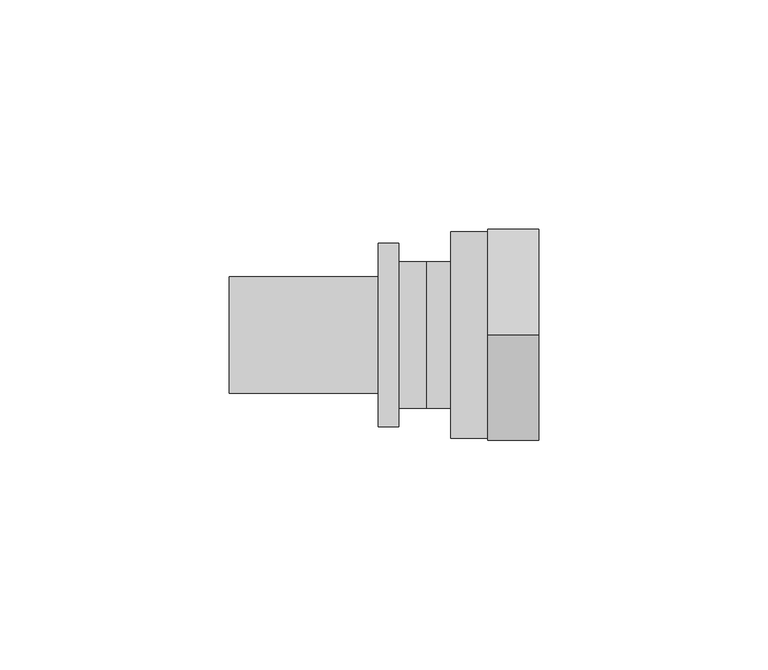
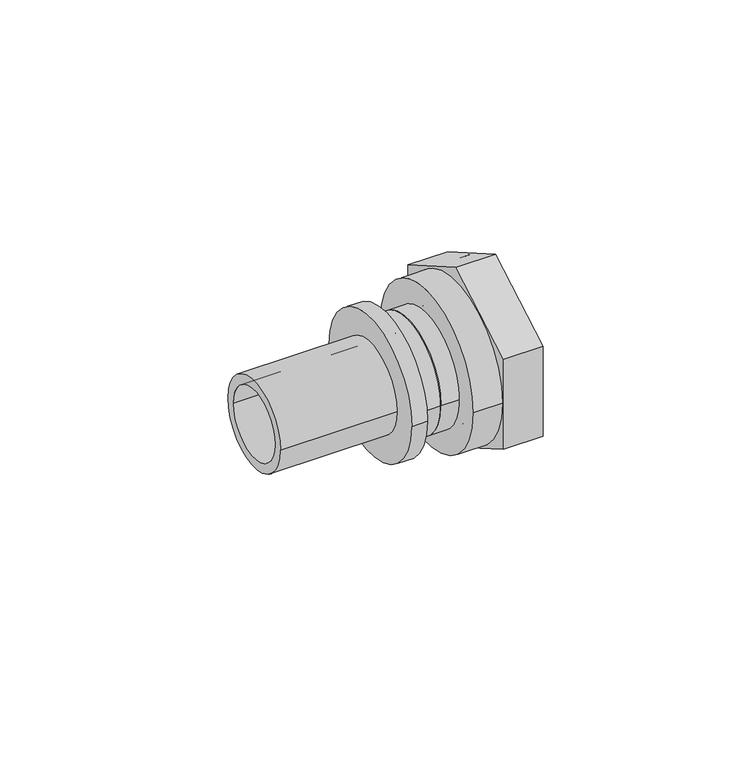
"""IFC4 building model written with IfcOpenShell, lengths in millimetres: pipe fitting geometry, REHAU_RAUTITAN_Adaptor_RX+_union nut : REHAU_RAUTITAN_Adaptor_RX+_union nut."""

from ifc_helpers import new_model, si_unit, point, frame, origin, origin_2d, place, context, project, spatial, polyline, circle_curve, trimmed, segment, composite_curve, outline, extrude, source, transform, mapped, element, save
from ifc_brep_helpers import plane_surface, cylinder_surface, revolved_surface, advanced_brep


def pipe_fitting_d2a3cc81(model_context):
    return source(origin(), model_context, "Body", "SolidModel", [
        extrude(outline(polyline([(0.0, -26.5581124), (-23.0, -13.2790562), (-23.0, 13.2790562), (0.0, 26.5581124), (23.0, 13.2790562), (23.0, -13.2790562), (0.0, -26.5581124)]), holes=[composite_curve([segment(trimmed(circle_curve(origin_2d(), 22.5), [point((-22.5, 0.0))], [point((22.5, 0.0))], True, "CARTESIAN"), True, "CONTINUOUS"), segment(trimmed(circle_curve(origin_2d(), 22.5), [point((22.5, 0.0))], [point((-22.5, 0.0))], True, "CARTESIAN"), True, "CONTINUOUS")], self_intersect=False)]), frame((13.3, 0.0, 0.0), z_axis=(1.0, 0.0, 0.0), x_axis=(0.0, 1.0, 0.0)), (0.0, 0.0, 1.0), 11.1),
        advanced_brep(
        [(24.4, 22.5, 0.0), (24.4, -22.5, 0.0), (5.3, -22.5, 0.0), (5.3, 22.5, 0.0), (9.0, 18.0, 0.0), (9.0, -18.0, 0.0), (24.4, -18.0, 0.0), (24.4, 18.0, 0.0), (5.3, 14.3, 0.0), (5.3, -14.3, 0.0), (9.0, -14.3, 0.0), (9.0, 14.3, 0.0)],
        [
            (0, 1, circle_curve(frame((24.4, 0.0, 0.0), z_axis=(-1.0, 0.0, 0.0), x_axis=(0.0, -1.0, 0.0)), 22.5)),
            (1, 2),
            (2, 3, circle_curve(frame((5.3, 0.0, 0.0), z_axis=(1.0, 0.0, 0.0), x_axis=(0.0, -1.0, 0.0)), 22.5)),
            (3, 0),
            (4, 5, circle_curve(frame((9.0, 0.0, 0.0), z_axis=(-1.0, 0.0, 0.0), x_axis=(0.0, -1.0, 0.0)), 18.0)),
            (5, 6),
            (6, 7, circle_curve(frame((24.4, 0.0, 0.0), z_axis=(1.0, 0.0, 0.0), x_axis=(0.0, -1.0, 0.0)), 18.0)),
            (7, 4),
            (8, 9, circle_curve(frame((5.3, 0.0, 0.0), z_axis=(-1.0, 0.0, 0.0), x_axis=(0.0, -1.0, 0.0)), 14.3)),
            (9, 10),
            (10, 11, circle_curve(frame((9.0, 0.0, 0.0), z_axis=(1.0, 0.0, 0.0), x_axis=(0.0, -1.0, 0.0)), 14.3)),
            (11, 8),
            (1, 0, circle_curve(frame((24.4, 0.0, 0.0), z_axis=(-1.0, 0.0, 0.0), x_axis=(0.0, 1.0, 0.0)), 22.5)),
            (3, 2, circle_curve(frame((5.3, 0.0, 0.0), z_axis=(1.0, 0.0, 0.0), x_axis=(0.0, 1.0, 0.0)), 22.5)),
            (6, 7, circle_curve(frame((24.4, 0.0, 0.0), z_axis=(-1.0, 0.0, 0.0), x_axis=(0.0, 1.0, 0.0)), 18.0)),
            (5, 4, circle_curve(frame((9.0, 0.0, 0.0), z_axis=(-1.0, 0.0, 0.0), x_axis=(0.0, 1.0, 0.0)), 18.0)),
            (10, 11, circle_curve(frame((9.0, 0.0, 0.0), z_axis=(-1.0, 0.0, 0.0), x_axis=(0.0, 1.0, 0.0)), 14.3)),
            (9, 8, circle_curve(frame((5.3, 0.0, 0.0), z_axis=(-1.0, 0.0, 0.0), x_axis=(0.0, 1.0, 0.0)), 14.3)),
        ],
        [
            cylinder_surface(frame((0.0, 0.0, 0.0), z_axis=(1.0, 0.0, 0.0), x_axis=(0.0, -1.0, 0.0)), 22.5),
            revolved_surface(polyline([(24.4, -18.0, 0.0), (9.0, -18.0, 0.0)]), (0.0, 0.0, 0.0), (1.0, 0.0, 0.0)),
            revolved_surface(polyline([(9.0, -14.3, 0.0), (5.3, -14.3, 0.0)]), (0.0, 0.0, 0.0), (1.0, 0.0, 0.0)),
            cylinder_surface(frame((0.0, 0.0, 0.0), z_axis=(1.0, 0.0, 0.0), x_axis=(0.0, 1.0, 0.0)), 22.5),
            plane_surface(frame((24.4, 0.0, 0.0), z_axis=(1.0, 0.0, 0.0), x_axis=(0.0, 1.0, 0.0))),
            revolved_surface(polyline([(24.4, 18.0, 0.0), (9.0, 18.0, 0.0)]), (0.0, 0.0, 0.0), (1.0, 0.0, 0.0)),
            plane_surface(frame((9.0, 0.0, 0.0), z_axis=(1.0, 0.0, 0.0), x_axis=(0.0, 1.0, 0.0))),
            revolved_surface(polyline([(9.0, 14.3, 0.0), (5.3, 14.3, 0.0)]), (0.0, 0.0, 0.0), (1.0, 0.0, 0.0)),
            plane_surface(frame((5.3, 0.0, 0.0), z_axis=(-1.0, 0.0, 0.0), x_axis=(0.0, 1.0, 0.0))),
        ],
        [
            (0, [[1, 2, 3, 4]]),
            (1, [[5, 6, 7, 8]]),
            (2, [[9, 10, 11, 12]]),
            (3, [[13, -4, 14, -2]]),
            (4, [[-13, -1], [15, -7]]),
            (5, [[16, -8, -15, -6]]),
            (6, [[-16, -5], [17, -11]]),
            (7, [[18, -12, -17, -10]]),
            (8, [[-14, -3], [-18, -9]]),
        ],
    ),
        advanced_brep(
        [(9.0, 16.0, 0.0), (9.0, -16.0, 0.0), (0.0, -16.0, 0.0), (0.0, 16.0, 0.0), (12.0, 18.0, 0.0), (12.0, -18.0, 0.0), (9.0, -18.0, 0.0), (9.0, 18.0, 0.0), (1.4730817, 10.0, 0.0), (1.4730817, -10.0, 0.0), (12.0, -10.0, 0.0), (12.0, 10.0, 0.0), (0.0, 7.8264556, 0.0), (0.0, -7.8264556, 0.0), (1.4730817, -7.8264556, 0.0), (1.4730817, 7.8264556, 0.0)],
        [
            (0, 1, circle_curve(frame((9.0, 0.0, 0.0), z_axis=(-1.0, 0.0, 0.0), x_axis=(0.0, -1.0, 0.0)), 16.0)),
            (1, 2),
            (2, 3, circle_curve(frame((0.0, 0.0, 0.0), z_axis=(1.0, 0.0, 0.0), x_axis=(0.0, -1.0, 0.0)), 16.0)),
            (3, 0),
            (4, 5, circle_curve(frame((12.0, 0.0, 0.0), z_axis=(-1.0, 0.0, 0.0), x_axis=(0.0, -1.0, 0.0)), 18.0)),
            (5, 6),
            (6, 7, circle_curve(frame((9.0, 0.0, 0.0), z_axis=(1.0, 0.0, 0.0), x_axis=(0.0, -1.0, 0.0)), 18.0)),
            (7, 4),
            (8, 9, circle_curve(frame((1.4730817, 0.0, 0.0), z_axis=(-1.0, 0.0, 0.0), x_axis=(0.0, -1.0, 0.0)), 10.0)),
            (9, 10),
            (10, 11, circle_curve(frame((12.0, 0.0, 0.0), z_axis=(1.0, 0.0, 0.0), x_axis=(0.0, -1.0, 0.0)), 10.0)),
            (11, 8),
            (2, 3, circle_curve(frame((0.0, 0.0, 0.0), z_axis=(-1.0, 0.0, 0.0), x_axis=(0.0, 1.0, 0.0)), 16.0)),
            (12, 13, circle_curve(frame((0.0, 0.0, 0.0), z_axis=(1.0, 0.0, 0.0), x_axis=(0.0, 1.0, 0.0)), 7.8264556)),
            (13, 12, circle_curve(frame((0.0, 0.0, 0.0), z_axis=(1.0, 0.0, 0.0), x_axis=(0.0, -1.0, 0.0)), 7.8264556)),
            (1, 0, circle_curve(frame((9.0, 0.0, 0.0), z_axis=(-1.0, 0.0, 0.0), x_axis=(0.0, 1.0, 0.0)), 16.0)),
            (6, 7, circle_curve(frame((9.0, 0.0, 0.0), z_axis=(-1.0, 0.0, 0.0), x_axis=(0.0, 1.0, 0.0)), 18.0)),
            (5, 4, circle_curve(frame((12.0, 0.0, 0.0), z_axis=(-1.0, 0.0, 0.0), x_axis=(0.0, 1.0, 0.0)), 18.0)),
            (10, 11, circle_curve(frame((12.0, 0.0, 0.0), z_axis=(-1.0, 0.0, 0.0), x_axis=(0.0, 1.0, 0.0)), 10.0)),
            (9, 8, circle_curve(frame((1.4730817, 0.0, 0.0), z_axis=(-1.0, 0.0, 0.0), x_axis=(0.0, 1.0, 0.0)), 10.0)),
            (13, 14),
            (14, 15, circle_curve(frame((1.4730817, 0.0, 0.0), z_axis=(1.0, 0.0, 0.0), x_axis=(0.0, -1.0, 0.0)), 7.8264556)),
            (15, 12),
            (14, 15, circle_curve(frame((1.4730817, 0.0, 0.0), z_axis=(-1.0, 0.0, 0.0), x_axis=(0.0, 1.0, 0.0)), 7.8264556)),
        ],
        [
            cylinder_surface(frame((0.0, 0.0, 0.0), z_axis=(1.0, 0.0, 0.0), x_axis=(0.0, -1.0, 0.0)), 16.0),
            cylinder_surface(frame((0.0, 0.0, 0.0), z_axis=(1.0, 0.0, 0.0), x_axis=(0.0, -1.0, 0.0)), 18.0),
            revolved_surface(polyline([(12.0, -10.0, 0.0), (1.4730817, -10.0, 0.0)]), (0.0, 0.0, 0.0), (1.0, 0.0, 0.0)),
            plane_surface(frame((0.0, 0.0, 0.0), z_axis=(-1.0, 0.0, 0.0), x_axis=(0.0, 1.0, 0.0))),
            cylinder_surface(frame((0.0, 0.0, 0.0), z_axis=(1.0, 0.0, 0.0), x_axis=(0.0, 1.0, 0.0)), 16.0),
            plane_surface(frame((9.0, 0.0, 0.0), z_axis=(-1.0, 0.0, 0.0), x_axis=(0.0, 1.0, 0.0))),
            cylinder_surface(frame((0.0, 0.0, 0.0), z_axis=(1.0, 0.0, 0.0), x_axis=(0.0, 1.0, 0.0)), 18.0),
            plane_surface(frame((12.0, 0.0, 0.0), z_axis=(1.0, 0.0, 0.0), x_axis=(0.0, 1.0, 0.0))),
            revolved_surface(polyline([(12.0, 10.0, 0.0), (1.4730817, 10.0, 0.0)]), (0.0, 0.0, 0.0), (1.0, 0.0, 0.0)),
            revolved_surface(polyline([(1.4730817, -7.8264556, 0.0), (0.0, -7.8264556, 0.0)]), (0.0, 0.0, 0.0), (1.0, 0.0, 0.0)),
            plane_surface(frame((1.4730817, 0.0, 0.0), z_axis=(1.0, 0.0, 0.0), x_axis=(0.0, 1.0, 0.0))),
            revolved_surface(polyline([(1.4730817, 7.8264556, 0.0), (0.0, 7.8264556, 0.0)]), (0.0, 0.0, 0.0), (1.0, 0.0, 0.0)),
        ],
        [
            (0, [[1, 2, 3, 4]]),
            (1, [[5, 6, 7, 8]]),
            (2, [[9, 10, 11, 12]]),
            (3, [[13, -3], [14, 15]]),
            (4, [[16, -4, -13, -2]]),
            (5, [[17, -7], [-16, -1]]),
            (6, [[18, -8, -17, -6]]),
            (7, [[-18, -5], [19, -11]]),
            (8, [[20, -12, -19, -10]]),
            (9, [[-15, 21, 22, 23]]),
            (10, [[-20, -9], [24, -22]]),
            (11, [[-14, -23, -24, -21]]),
        ],
    ),
        advanced_brep(
        [(0.0, 16.0, 0.0), (0.0, -16.0, 0.0), (-6.1, -16.0, 0.0), (-6.1, 16.0, 0.0), (-43.0, 10.0, 0.0), (-43.0, -10.0, 0.0), (0.0, -10.0, 0.0), (0.0, 10.0, 0.0), (-10.5, 12.725, 0.0), (-10.5, -12.725, 0.0), (-43.0, -12.725, 0.0), (-43.0, 12.725, 0.0), (-6.1, 20.0, 0.0), (-6.1, -20.0, 0.0), (-10.5, -20.0, 0.0), (-10.5, 20.0, 0.0)],
        [
            (0, 1, circle_curve(frame((0.0, 0.0, 0.0), z_axis=(-1.0, 0.0, 0.0), x_axis=(0.0, -1.0, 0.0)), 16.0)),
            (1, 2),
            (2, 3, circle_curve(frame((-6.1, 0.0, 0.0), z_axis=(1.0, 0.0, 0.0), x_axis=(0.0, -1.0, 0.0)), 16.0)),
            (3, 0),
            (4, 5, circle_curve(frame((-43.0, 0.0, 0.0), z_axis=(-1.0, 0.0, 0.0), x_axis=(0.0, -1.0, 0.0)), 10.0)),
            (5, 6),
            (6, 7, circle_curve(frame((0.0, 0.0, 0.0), z_axis=(1.0, 0.0, 0.0), x_axis=(0.0, -1.0, 0.0)), 10.0)),
            (7, 4),
            (8, 9, circle_curve(frame((-10.5, 0.0, 0.0), z_axis=(-1.0, 0.0, 0.0), x_axis=(0.0, -1.0, 0.0)), 12.725)),
            (9, 10),
            (10, 11, circle_curve(frame((-43.0, 0.0, 0.0), z_axis=(1.0, 0.0, 0.0), x_axis=(0.0, -1.0, 0.0)), 12.725)),
            (11, 8),
            (12, 13, circle_curve(frame((-6.1, 0.0, 0.0), z_axis=(-1.0, 0.0, 0.0), x_axis=(0.0, -1.0, 0.0)), 20.0)),
            (13, 14),
            (14, 15, circle_curve(frame((-10.5, 0.0, 0.0), z_axis=(1.0, 0.0, 0.0), x_axis=(0.0, -1.0, 0.0)), 20.0)),
            (15, 12),
            (1, 0, circle_curve(frame((0.0, 0.0, 0.0), z_axis=(-1.0, 0.0, 0.0), x_axis=(0.0, 1.0, 0.0)), 16.0)),
            (3, 2, circle_curve(frame((-6.1, 0.0, 0.0), z_axis=(1.0, 0.0, 0.0), x_axis=(0.0, 1.0, 0.0)), 16.0)),
            (6, 7, circle_curve(frame((0.0, 0.0, 0.0), z_axis=(-1.0, 0.0, 0.0), x_axis=(0.0, 1.0, 0.0)), 10.0)),
            (5, 4, circle_curve(frame((-43.0, 0.0, 0.0), z_axis=(-1.0, 0.0, 0.0), x_axis=(0.0, 1.0, 0.0)), 10.0)),
            (10, 11, circle_curve(frame((-43.0, 0.0, 0.0), z_axis=(-1.0, 0.0, 0.0), x_axis=(0.0, 1.0, 0.0)), 12.725)),
            (9, 8, circle_curve(frame((-10.5, 0.0, 0.0), z_axis=(-1.0, 0.0, 0.0), x_axis=(0.0, 1.0, 0.0)), 12.725)),
            (14, 15, circle_curve(frame((-10.5, 0.0, 0.0), z_axis=(-1.0, 0.0, 0.0), x_axis=(0.0, 1.0, 0.0)), 20.0)),
            (13, 12, circle_curve(frame((-6.1, 0.0, 0.0), z_axis=(-1.0, 0.0, 0.0), x_axis=(0.0, 1.0, 0.0)), 20.0)),
        ],
        [
            cylinder_surface(frame((0.0, 0.0, 0.0), z_axis=(1.0, 0.0, 0.0), x_axis=(0.0, -1.0, 0.0)), 16.0),
            revolved_surface(polyline([(0.0, -10.0, 0.0), (-43.0, -10.0, 0.0)]), (0.0, 0.0, 0.0), (1.0, 0.0, 0.0)),
            cylinder_surface(frame((0.0, 0.0, 0.0), z_axis=(1.0, 0.0, 0.0), x_axis=(0.0, -1.0, 0.0)), 12.725),
            cylinder_surface(frame((0.0, 0.0, 0.0), z_axis=(1.0, 0.0, 0.0), x_axis=(0.0, -1.0, 0.0)), 20.0),
            cylinder_surface(frame((0.0, 0.0, 0.0), z_axis=(1.0, 0.0, 0.0), x_axis=(0.0, 1.0, 0.0)), 16.0),
            plane_surface(frame((0.0, 0.0, 0.0), z_axis=(1.0, 0.0, 0.0), x_axis=(0.0, 1.0, 0.0))),
            revolved_surface(polyline([(0.0, 10.0, 0.0), (-43.0, 10.0, 0.0)]), (0.0, 0.0, 0.0), (1.0, 0.0, 0.0)),
            plane_surface(frame((-43.0, 0.0, 0.0), z_axis=(-1.0, 0.0, 0.0), x_axis=(0.0, 1.0, 0.0))),
            cylinder_surface(frame((0.0, 0.0, 0.0), z_axis=(1.0, 0.0, 0.0), x_axis=(0.0, 1.0, 0.0)), 12.725),
            plane_surface(frame((-10.5, 0.0, 0.0), z_axis=(-1.0, 0.0, 0.0), x_axis=(0.0, 1.0, 0.0))),
            cylinder_surface(frame((0.0, 0.0, 0.0), z_axis=(1.0, 0.0, 0.0), x_axis=(0.0, 1.0, 0.0)), 20.0),
            plane_surface(frame((-6.1, 0.0, 0.0), z_axis=(1.0, 0.0, 0.0), x_axis=(0.0, 1.0, 0.0))),
        ],
        [
            (0, [[1, 2, 3, 4]]),
            (1, [[5, 6, 7, 8]]),
            (2, [[9, 10, 11, 12]]),
            (3, [[13, 14, 15, 16]]),
            (4, [[17, -4, 18, -2]]),
            (5, [[-17, -1], [19, -7]]),
            (6, [[20, -8, -19, -6]]),
            (7, [[21, -11], [-20, -5]]),
            (8, [[22, -12, -21, -10]]),
            (9, [[23, -15], [-22, -9]]),
            (10, [[24, -16, -23, -14]]),
            (11, [[-24, -13], [-18, -3]]),
        ],
    ),
    ])


if __name__ == "__main__":
    model = new_model("IFC4")
    model_context = context("Model", 3, world=origin())
    ifc_project = project(units=[si_unit("LENGTHUNIT", "METRE", prefix="MILLI")], contexts=[model_context])
    site = spatial("IfcSite", under=ifc_project)
    building = spatial("IfcBuilding", under=site)
    placement = place(None, origin())
    pipe_fitting_shape = pipe_fitting_d2a3cc81(model_context)
    element("IfcPipeFitting", 1, ObjectType="REHAU_RAUTITAN_Adaptor_RX+_union nut : REHAU_RAUTITAN_Adaptor_RX+_union nut", at=placement, inside=building, context=model_context, shape_type="MappedRepresentation", body=[
        mapped(pipe_fitting_shape, transform((0.0, 0.0, 0.0), x_axis=(1.0, 0.0, 0.0), y_axis=(0.0, 1.0, 0.0), z_axis=(0.0, 0.0, 1.0))),
    ])
    save(model, "model.ifc")
